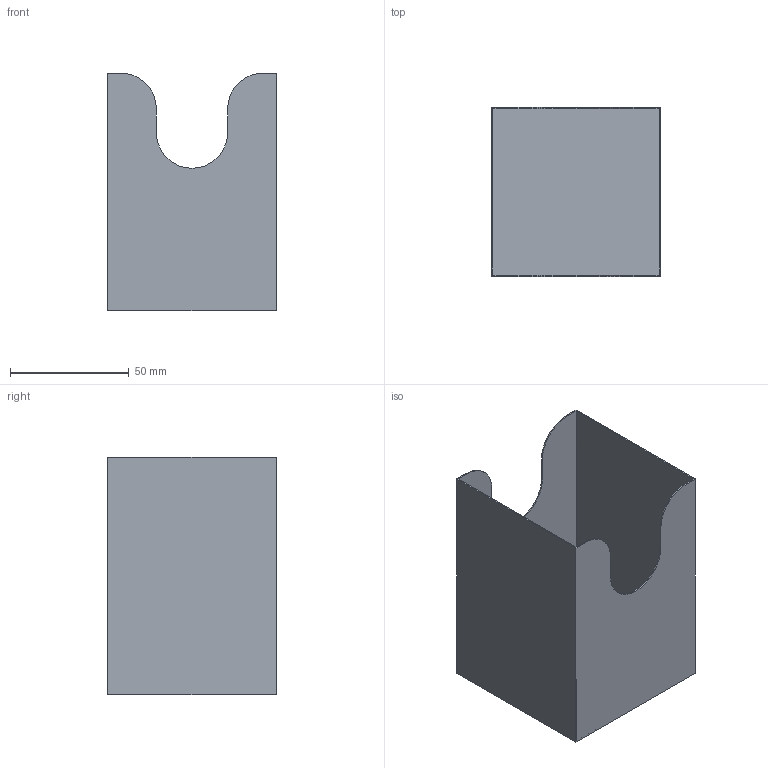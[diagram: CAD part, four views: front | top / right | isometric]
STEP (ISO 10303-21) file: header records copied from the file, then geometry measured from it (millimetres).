
FILE_DESCRIPTION(/* description */ ('STEP AP242','CAx-IF Rec.Pracs.---Representation and Presentation of Product Manufacturing Information (PMI)---4.0---2014-10-13','CAx-IF Rec.Pracs.---3D Tessellated Geometry---0.4---2014-09-14','2;1'),/* implementation_level */ '2;1');
FILE_NAME(/* name */ '675f9e4584c84846f38c26a1',/* time_stamp */ '2024-12-16T03:28:05Z',/* author */ (''),/* organization */ (''),/* preprocessor_version */ 'ST-DEVELOPER v20',/* originating_system */ 'ONSHAPE BY PTC INC, 1.191',/* authorisation */ ' ');
FILE_SCHEMA (('AP242_MANAGED_MODEL_BASED_3D_ENGINEERING_MIM_LF { 1 0 10303 442 1 1 4 }'));
Length unit declared in the file: metre
Products named in the file (1): Part 1
Bounding box: 71 x 71 x 100 mm (x, y, z)
Volume: 15350 mm3; surface area: 61596.2 mm2
Topology: 1 solids, 1 shells, 22 faces, 60 edges, 40 vertices
Faces by surface type: plane 16, cylinder 6
Entity records: 718 total; most frequent: CARTESIAN_POINT 123, ORIENTED_EDGE 120, DIRECTION 118, EDGE_CURVE 60, LINE 48, VECTOR 48, VERTEX_POINT 40, AXIS2_PLACEMENT_3D 35
